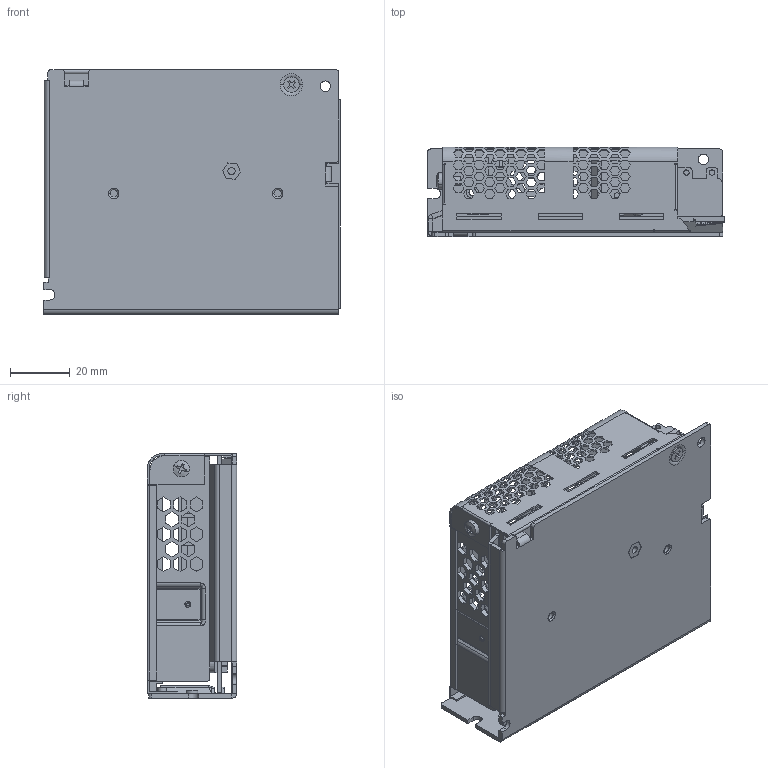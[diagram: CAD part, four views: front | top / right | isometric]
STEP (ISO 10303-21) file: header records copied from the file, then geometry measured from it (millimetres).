
FILE_DESCRIPTION (( 'STEP AP214' ), '1' );
FILE_NAME ('LBA35_50.STEP', '2025-12-17T09:04:54', ( '' ), ( '' ), 'SwSTEP 2.0', 'SolidWorks 2024', '' );
FILE_SCHEMA (( 'AUTOMOTIVE_DESIGN' ));
Length unit declared in the file: millimetre
Products named in the file (1): LBA35_50
Bounding box: 99.5 x 30 x 82 mm (x, y, z)
Volume: 42532.9 mm3; surface area: 84690.6 mm2
Topology: 25 solids, 25 shells, 3477 faces, 9728 edges, 6292 vertices
Faces by surface type: plane 2904, cylinder 347, bspline 143, cone 30, torus 29, sphere 24
Entity records: 113518 total; most frequent: CARTESIAN_POINT 23293, ORIENTED_EDGE 19450, DIRECTION 16695, EDGE_CURVE 9725, LINE 8317, VECTOR 8317, VERTEX_POINT 6291, EDGE_LOOP 4278
